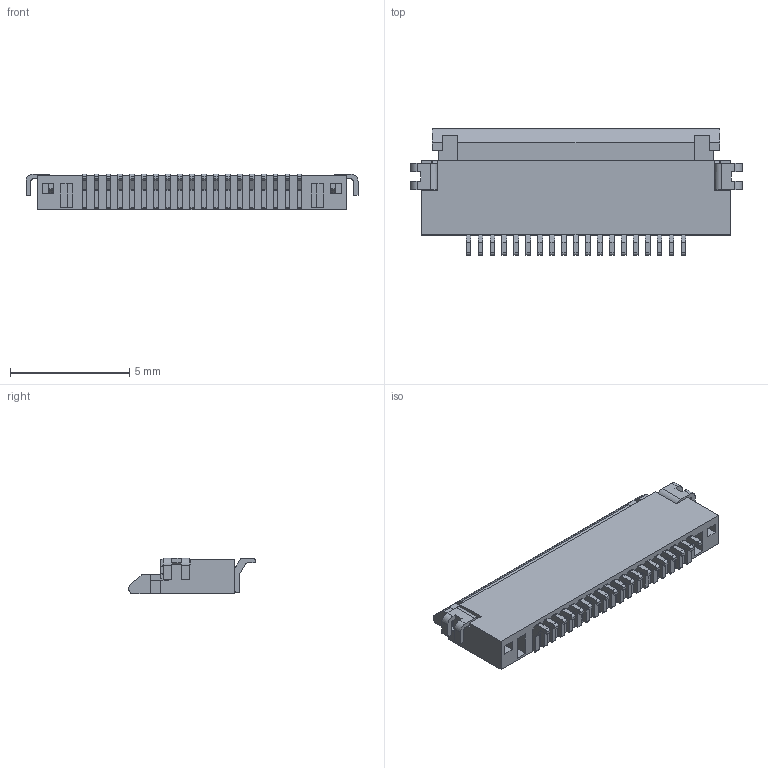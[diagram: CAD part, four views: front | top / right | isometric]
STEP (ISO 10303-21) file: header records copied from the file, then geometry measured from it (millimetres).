
FILE_DESCRIPTION((''),'2;1');
FILE_NAME('S-50506-019XX-XXX','2018-01-20T',('k06399'),(''),'PRO/ENGINEER BY PARAMETRIC TECHNOLOGY CORPORATION, 2009360','PRO/ENGINEER BY PARAMETRIC TECHNOLOGY CORPORATION, 2009360','');
FILE_SCHEMA(('CONFIG_CONTROL_DESIGN'));
Length unit declared in the file: millimetre
Products named in the file (1): S-50506-019XX-XXX
Bounding box: 13.9 x 5.3 x 1.5 mm (x, y, z)
Volume: 49.9 mm3; surface area: 363.4 mm2
Topology: 1 solids, 1 shells, 1310 faces, 3923 edges, 2594 vertices
Faces by surface type: plane 909, cylinder 401
Entity records: 44341 total; most frequent: CARTESIAN_POINT 7866, ORIENTED_EDGE 7846, DIRECTION 7481, EDGE_CURVE 3923, VECTOR 2967, LINE 2967, VERTEX_POINT 2594, AXIS2_PLACEMENT_3D 2257
